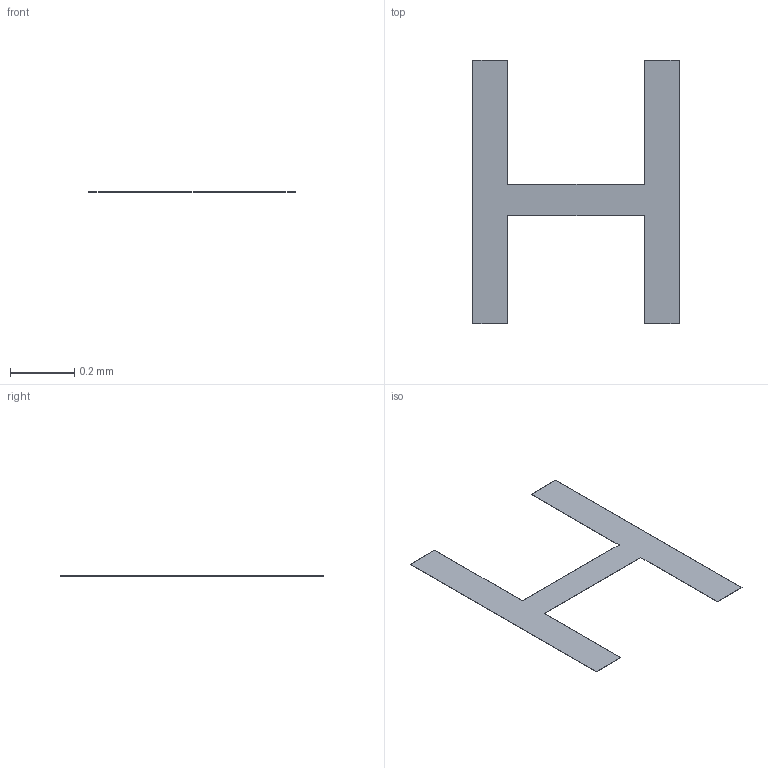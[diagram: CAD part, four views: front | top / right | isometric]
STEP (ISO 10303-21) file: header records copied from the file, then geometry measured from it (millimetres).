
FILE_DESCRIPTION(/* description */ ('STEP AP242 Edition 2','CAx-IF Rec.Pracs.---Representation and Presentation of Product Manufacturing Information (PMI)---4.0---2014-10-13','CAx-IF Rec.Pracs.---3D Tessellated Geometry---0.4---2014-09-14','2;1','CAx-IF Rec.Pracs.---User Defined Attributes---1.5---2016-08-15'),/* implementation_level */ '2;1');
FILE_NAME(/* name */ 'Drone Layout - Surface 362',/* time_stamp */ '2026-10-04T22:22:57Z',/* author */ (''),/* organization */ (''),/* preprocessor_version */ 'ST-DEVELOPER v20',/* originating_system */ 'ONSHAPE BY PTC INC, 1.221',/* authorisation */ ' ');
FILE_SCHEMA (('AP242_MANAGED_MODEL_BASED_3D_ENGINEERING_MIM_LF { 1 0 10303 442 3 1 4 }'));
Length unit declared in the file: metre
Products named in the file (1): VL53L0X:1__Body12
Bounding box: 0.64 x 0.82 x 0 mm (x, y, z)
Volume: 0 mm3; surface area: 0.4 mm2
Topology: 1 solids, 1 shells, 14 faces, 36 edges, 24 vertices
Faces by surface type: plane 14
Entity records: 433 total; most frequent: CARTESIAN_POINT 75, ORIENTED_EDGE 72, DIRECTION 66, EDGE_CURVE 36, LINE 36, VECTOR 36, VERTEX_POINT 24, AXIS2_PLACEMENT_3D 15
